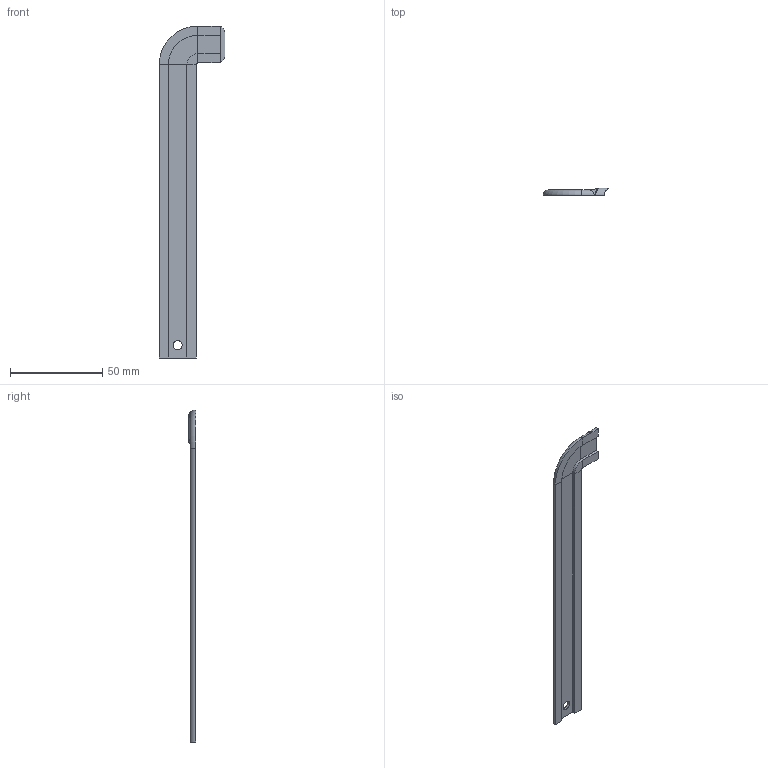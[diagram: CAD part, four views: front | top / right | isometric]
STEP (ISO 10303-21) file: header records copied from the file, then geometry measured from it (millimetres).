
FILE_DESCRIPTION (( 'STEP AP203' ), '1' );
FILE_NAME ('Ñîåäèíèòåëü ìîäåëü N8.STEP', '2025-08-23T18:41:10', ( '' ), ( '' ), 'SwSTEP 2.0', 'SolidWorks 2024', '' );
FILE_SCHEMA (( 'CONFIG_CONTROL_DESIGN' ));
Length unit declared in the file: millimetre
Products named in the file (1): Соединитель модель N8
Bounding box: 35.6 x 4 x 180 mm (x, y, z)
Volume: 7857.6 mm3; surface area: 8900.2 mm2
Topology: 1 solids, 1 shells, 51 faces, 115 edges, 62 vertices
Faces by surface type: plane 27, cylinder 12, bspline 10, torus 2
Entity records: 1742 total; most frequent: CARTESIAN_POINT 615, ORIENTED_EDGE 222, DIRECTION 209, EDGE_CURVE 111, AXIS2_PLACEMENT_3D 74, VERTEX_POINT 62, VECTOR 61, LINE 61
